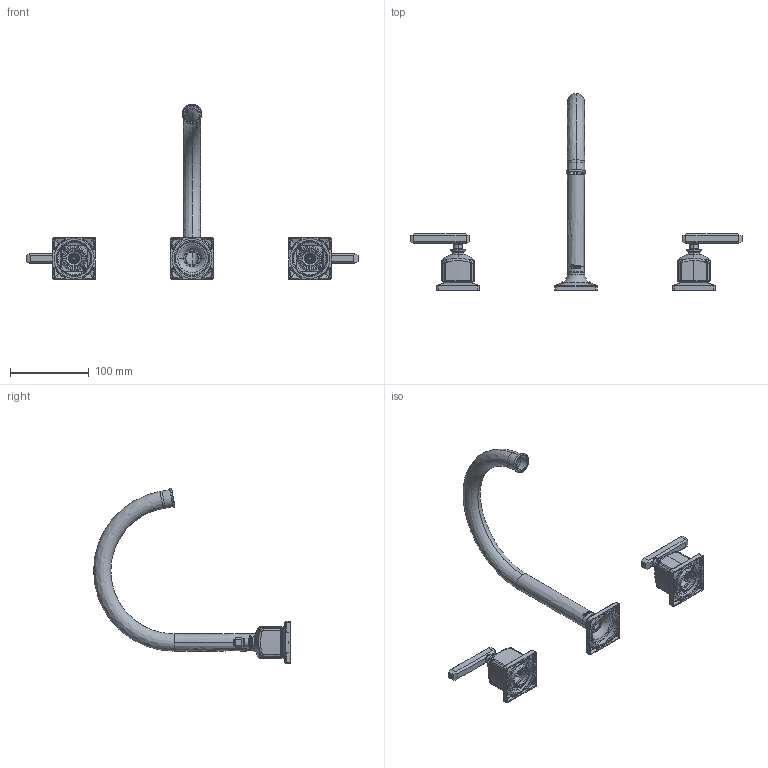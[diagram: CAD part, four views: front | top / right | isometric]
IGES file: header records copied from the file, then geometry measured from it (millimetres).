
Start section: SolidWorks IGES file using analytic representation for surfaces
Global section: file name: C:\Users\arao\Desktop\Project-Aricia\ADHOC-02083-6351 IGS files updated\sku_tap08d3lmseries_igs.IGS; native system: SolidWorks 2025; preprocessor: SolidWorks 2025; author: arao; date: 251027.165606; units: inch
Bounding box: 422.4 x 250.51 x 223.19 mm (x, y, z)
Volume: 124846.9 mm3; surface area: 126665 mm2
Topology: 11 solids, 11 shells, 2030 faces, 5225 edges, 3260 vertices
Faces by surface type: revolution 755, plane 708, bspline 567
